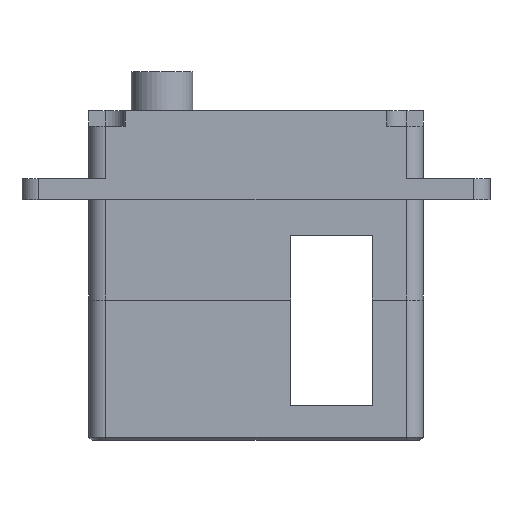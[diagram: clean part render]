
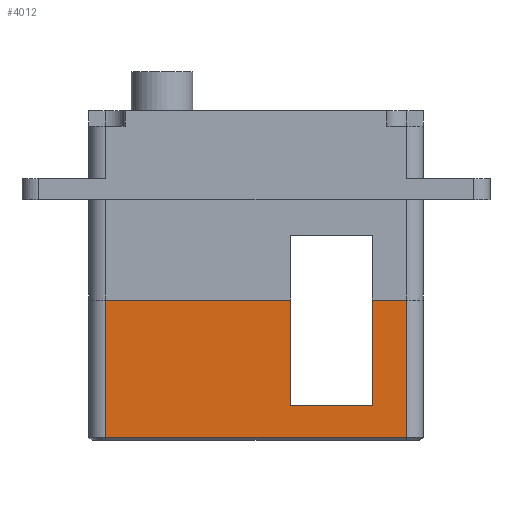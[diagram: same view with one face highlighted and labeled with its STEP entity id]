
A CAD part, front view. The second image highlights one B-rep face of the part: STEP entity #4012.
In plain terms, the highlighted planar face has unit normal (0, -1, 0).
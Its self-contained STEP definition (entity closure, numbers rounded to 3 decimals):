
#748 = EDGE_CURVE ( 'NONE', #5147, #776, #5183, .T. ) ;
#755 = CARTESIAN_POINT ( 'NONE',  ( 15., -5., -9. ) ) ;
#776 = VERTEX_POINT ( 'NONE', #6106 ) ;
#979 = VERTEX_POINT ( 'NONE', #4408 ) ;
#1160 = EDGE_LOOP ( 'NONE', ( #4804, #4232, #3165, #7554, #4858, #8079, #5873, #1352 ) ) ;
#1304 = VECTOR ( 'NONE', #1998, 1000. ) ;
#1352 = ORIENTED_EDGE ( 'NONE', *, *, #3400, .T. ) ;
#1412 = DIRECTION ( 'NONE',  ( 1., 0., 0. ) ) ;
#1633 = VERTEX_POINT ( 'NONE', #7687 ) ;
#1668 = EDGE_CURVE ( 'NONE', #4691, #2716, #4201, .T. ) ;
#1786 = LINE ( 'NONE', #5051, #1880 ) ;
#1880 = VECTOR ( 'NONE', #7564, 1000. ) ;
#1905 = CARTESIAN_POINT ( 'NONE',  ( -13.5, -5., -21.3 ) ) ;
#1950 = VECTOR ( 'NONE', #1412, 1000. ) ;
#1958 = VERTEX_POINT ( 'NONE', #7998 ) ;
#1981 = CARTESIAN_POINT ( 'NONE',  ( 10.44, -5., -9. ) ) ;
#1998 = DIRECTION ( 'NONE',  ( -1., 0., 0. ) ) ;
#2010 = DIRECTION ( 'NONE',  ( 0., -1., 0. ) ) ;
#2165 = VERTEX_POINT ( 'NONE', #1905 ) ;
#2608 = LINE ( 'NONE', #7188, #6324 ) ;
#2716 = VERTEX_POINT ( 'NONE', #2819 ) ;
#2819 = CARTESIAN_POINT ( 'NONE',  ( 10.44, -5., -18.5 ) ) ;
#2888 = DIRECTION ( 'NONE',  ( -1., 0., 0. ) ) ;
#3165 = ORIENTED_EDGE ( 'NONE', *, *, #1668, .T. ) ;
#3200 = CARTESIAN_POINT ( 'NONE',  ( 13.5, -5., -21.3 ) ) ;
#3221 = EDGE_CURVE ( 'NONE', #2165, #979, #1786, .T. ) ;
#3345 = CARTESIAN_POINT ( 'NONE',  ( 13.5, -5., -9. ) ) ;
#3371 = DIRECTION ( 'NONE',  ( 0., 0., 1. ) ) ;
#3400 = EDGE_CURVE ( 'NONE', #2165, #1958, #6751, .T. ) ;
#3536 = EDGE_CURVE ( 'NONE', #1958, #1633, #5625, .T. ) ;
#3831 = CARTESIAN_POINT ( 'NONE',  ( 3.11, -5., -18.5 ) ) ;
#3895 = PLANE ( 'NONE',  #8128 ) ;
#4012 = ADVANCED_FACE ( 'NONE', ( #6425 ), #3895, .T. ) ;
#4062 = LINE ( 'NONE', #7711, #1304 ) ;
#4201 = LINE ( 'NONE', #5192, #7344 ) ;
#4232 = ORIENTED_EDGE ( 'NONE', *, *, #4528, .T. ) ;
#4257 = LINE ( 'NONE', #5606, #5611 ) ;
#4369 = EDGE_CURVE ( 'NONE', #2716, #5147, #2608, .T. ) ;
#4408 = CARTESIAN_POINT ( 'NONE',  ( -13.5, -5., -9. ) ) ;
#4528 = EDGE_CURVE ( 'NONE', #1633, #4691, #4257, .T. ) ;
#4566 = DIRECTION ( 'NONE',  ( 0., 0., -1. ) ) ;
#4691 = VERTEX_POINT ( 'NONE', #1981 ) ;
#4804 = ORIENTED_EDGE ( 'NONE', *, *, #3536, .T. ) ;
#4858 = ORIENTED_EDGE ( 'NONE', *, *, #748, .T. ) ;
#5035 = DIRECTION ( 'NONE',  ( -1., 0., 0. ) ) ;
#5051 = CARTESIAN_POINT ( 'NONE',  ( -13.5, -5., -21.653 ) ) ;
#5112 = DIRECTION ( 'NONE',  ( 0., 0., -1. ) ) ;
#5147 = VERTEX_POINT ( 'NONE', #3831 ) ;
#5183 = LINE ( 'NONE', #5480, #5384 ) ;
#5192 = CARTESIAN_POINT ( 'NONE',  ( 10.44, -5., -9. ) ) ;
#5348 = EDGE_CURVE ( 'NONE', #776, #979, #4062, .T. ) ;
#5384 = VECTOR ( 'NONE', #7302, 1000. ) ;
#5480 = CARTESIAN_POINT ( 'NONE',  ( 3.11, -5., -9. ) ) ;
#5606 = CARTESIAN_POINT ( 'NONE',  ( 15., -5., -9. ) ) ;
#5611 = VECTOR ( 'NONE', #5035, 1000. ) ;
#5625 = LINE ( 'NONE', #3345, #7722 ) ;
#5873 = ORIENTED_EDGE ( 'NONE', *, *, #3221, .F. ) ;
#6106 = CARTESIAN_POINT ( 'NONE',  ( 3.11, -5., -9. ) ) ;
#6324 = VECTOR ( 'NONE', #2888, 1000. ) ;
#6425 = FACE_OUTER_BOUND ( 'NONE', #1160, .T. ) ;
#6751 = LINE ( 'NONE', #3200, #1950 ) ;
#7188 = CARTESIAN_POINT ( 'NONE',  ( 15., -5., -18.5 ) ) ;
#7302 = DIRECTION ( 'NONE',  ( 0., 0., 1. ) ) ;
#7344 = VECTOR ( 'NONE', #5112, 1000. ) ;
#7554 = ORIENTED_EDGE ( 'NONE', *, *, #4369, .T. ) ;
#7564 = DIRECTION ( 'NONE',  ( 0., 0., 1. ) ) ;
#7687 = CARTESIAN_POINT ( 'NONE',  ( 13.5, -5., -9. ) ) ;
#7711 = CARTESIAN_POINT ( 'NONE',  ( 15., -5., -9. ) ) ;
#7722 = VECTOR ( 'NONE', #3371, 1000. ) ;
#7998 = CARTESIAN_POINT ( 'NONE',  ( 13.5, -5., -21.3 ) ) ;
#8079 = ORIENTED_EDGE ( 'NONE', *, *, #5348, .T. ) ;
#8128 = AXIS2_PLACEMENT_3D ( 'NONE', #755, #2010, #4566 ) ;
